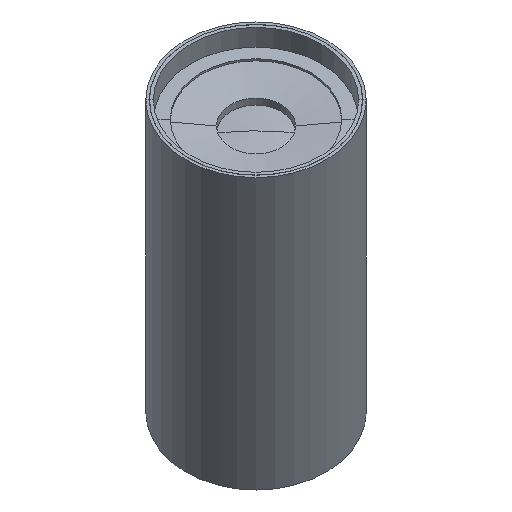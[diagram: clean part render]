
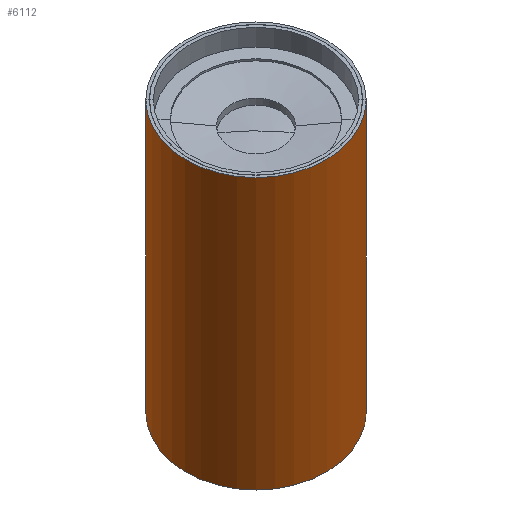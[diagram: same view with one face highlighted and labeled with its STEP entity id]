
A CAD part, top view. The second image highlights one B-rep face of the part: STEP entity #6112.
In plain terms, the highlighted cylindrical face has radius 45 mm (diameter 90 mm), a partial arc.
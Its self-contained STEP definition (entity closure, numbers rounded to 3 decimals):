
#464=CIRCLE('',#6654,45.);
#466=CIRCLE('',#6658,45.);
#777=FACE_OUTER_BOUND('',#1116,.T.);
#1116=EDGE_LOOP('',(#5208,#5209,#5210,#5211));
#1739=LINE('',#10318,#2314);
#1740=LINE('',#10320,#2315);
#2314=VECTOR('',#8135,304.8);
#2315=VECTOR('',#8136,304.8);
#2869=VERTEX_POINT('',#10310);
#2870=VERTEX_POINT('',#10313);
#2871=VERTEX_POINT('',#10317);
#2872=VERTEX_POINT('',#10319);
#3671=EDGE_CURVE('',#2869,#2870,#464,.T.);
#3672=EDGE_CURVE('',#2870,#2871,#1739,.T.);
#3673=EDGE_CURVE('',#2872,#2869,#1740,.T.);
#3675=EDGE_CURVE('',#2872,#2871,#466,.T.);
#5208=ORIENTED_EDGE('',*,*,#3673,.T.);
#5209=ORIENTED_EDGE('',*,*,#3671,.T.);
#5210=ORIENTED_EDGE('',*,*,#3672,.T.);
#5211=ORIENTED_EDGE('',*,*,#3675,.F.);
#5870=CYLINDRICAL_SURFACE('',#6657,45.);
#6112=ADVANCED_FACE('',(#777),#5870,.T.);
#6654=AXIS2_PLACEMENT_3D('',#10315,#8131,#8132);
#6657=AXIS2_PLACEMENT_3D('',#10322,#8139,#8140);
#6658=AXIS2_PLACEMENT_3D('',#10323,#8141,#8142);
#8131=DIRECTION('center_axis',(0.,-0.707,
0.707));
#8132=DIRECTION('ref_axis',(1.,0.,0.));
#8135=DIRECTION('',(0.,-0.707,0.707));
#8136=DIRECTION('',(0.,0.707,-0.707));
#8139=DIRECTION('center_axis',(0.,-0.707,
0.707));
#8140=DIRECTION('ref_axis',(1.,0.,0.));
#8141=DIRECTION('center_axis',(0.,-0.707,
0.707));
#8142=DIRECTION('ref_axis',(1.,0.,0.));
#10310=CARTESIAN_POINT('',(45.,48.318,88.848));
#10313=CARTESIAN_POINT('',(-45.,48.318,88.848));
#10315=CARTESIAN_POINT('Origin',(0.,48.318,
88.848));
#10317=CARTESIAN_POINT('',(-45.,-78.961,216.127));
#10318=CARTESIAN_POINT('',(-45.,48.318,88.848));
#10319=CARTESIAN_POINT('',(45.,-78.961,216.127));
#10320=CARTESIAN_POINT('',(45.,-78.961,216.127));
#10322=CARTESIAN_POINT('Origin',(0.,-18.757,
155.924));
#10323=CARTESIAN_POINT('Origin',(0.,-78.961,
216.127));
